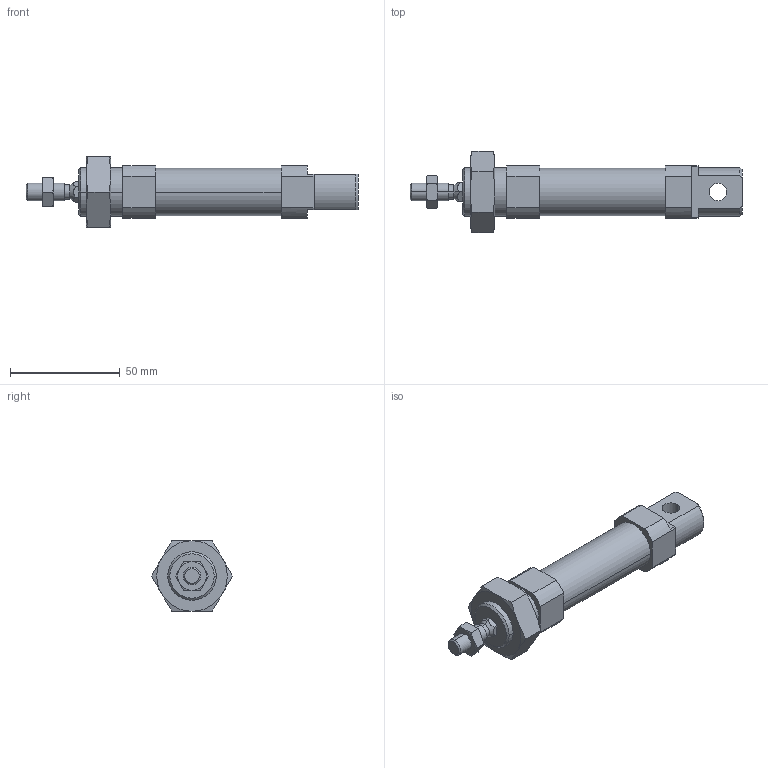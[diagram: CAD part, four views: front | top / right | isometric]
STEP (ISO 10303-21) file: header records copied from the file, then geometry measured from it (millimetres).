
FILE_DESCRIPTION (( 'STEP AP203' ), '1' );
FILE_NAME ('CSMK20-25.STEP', '2020-04-02T10:46:49', ( '' ), ( '' ), 'SwSTEP 2.0', 'SolidWorks 2019', '' );
FILE_SCHEMA (( 'CONFIG_CONTROL_DESIGN' ));
Length unit declared in the file: millimetre
Products named in the file (1): CSMK20-25
Bounding box: 151 x 36.95 x 32 mm (x, y, z)
Volume: 50247.8 mm3; surface area: 21193.6 mm2
Topology: 4 solids, 4 shells, 133 faces, 306 edges, 187 vertices
Faces by surface type: plane 53, cone 48, cylinder 32
Entity records: 4251 total; most frequent: CARTESIAN_POINT 1191, DIRECTION 626, ORIENTED_EDGE 608, EDGE_CURVE 304, AXIS2_PLACEMENT_3D 246, VERTEX_POINT 187, EDGE_LOOP 149, VECTOR 134
